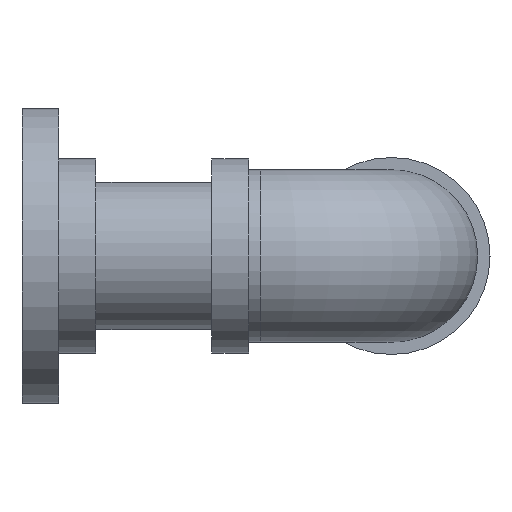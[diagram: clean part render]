
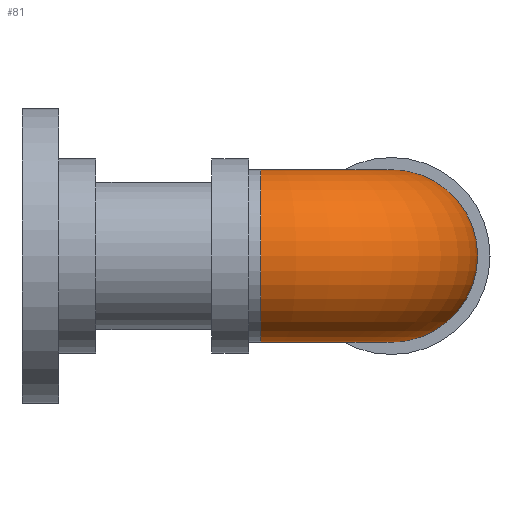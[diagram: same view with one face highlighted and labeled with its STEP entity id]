
A CAD part, left-side view. The second image highlights one B-rep face of the part: STEP entity #81.
In plain terms, the highlighted toroidal (fillet/blend) face has major radius 10.6 mm and minor radius 7 mm.
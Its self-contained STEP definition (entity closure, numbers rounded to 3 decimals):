
#81 = ADVANCED_FACE( '', ( #189, #190 ), #191, .T. );
#189 = FACE_OUTER_BOUND( '', #334, .T. );
#190 = FACE_OUTER_BOUND( '', #335, .T. );
#191 = TOROIDAL_SURFACE( '', #336, 10.6, 7. );
#334 = EDGE_LOOP( '', ( #495 ) );
#335 = EDGE_LOOP( '', ( #496 ) );
#336 = AXIS2_PLACEMENT_3D( '', #497, #498, #499 );
#495 = ORIENTED_EDGE( '', *, *, #665, .T. );
#496 = ORIENTED_EDGE( '', *, *, #666, .F. );
#497 = CARTESIAN_POINT( '', ( 10.6, -19.4, 0. ) );
#498 = DIRECTION( '', ( 0., 0., 1. ) );
#499 = DIRECTION( '', ( 1., 0., 0. ) );
#665 = EDGE_CURVE( '', #750, #750, #751, .T. );
#666 = EDGE_CURVE( '', #752, #752, #753, .T. );
#750 = VERTEX_POINT( '', #853 );
#751 = CIRCLE( '', #854, 7. );
#752 = VERTEX_POINT( '', #855 );
#753 = CIRCLE( '', #856, 7. );
#853 = CARTESIAN_POINT( '', ( -7., -19.4, 0. ) );
#854 = AXIS2_PLACEMENT_3D( '', #960, #961, #962 );
#855 = CARTESIAN_POINT( '', ( 10.6, -37., 0. ) );
#856 = AXIS2_PLACEMENT_3D( '', #963, #964, #965 );
#960 = CARTESIAN_POINT( '', ( 0., -19.4, 0. ) );
#961 = DIRECTION( '', ( 0., -1., 0. ) );
#962 = DIRECTION( '', ( -1., 0., 0. ) );
#963 = CARTESIAN_POINT( '', ( 10.6, -30., 0. ) );
#964 = DIRECTION( '', ( 1., 0., 0. ) );
#965 = DIRECTION( '', ( 0., -1., 0. ) );
